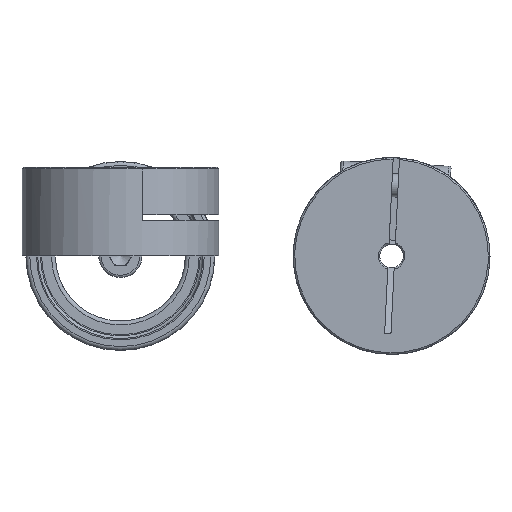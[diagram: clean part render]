
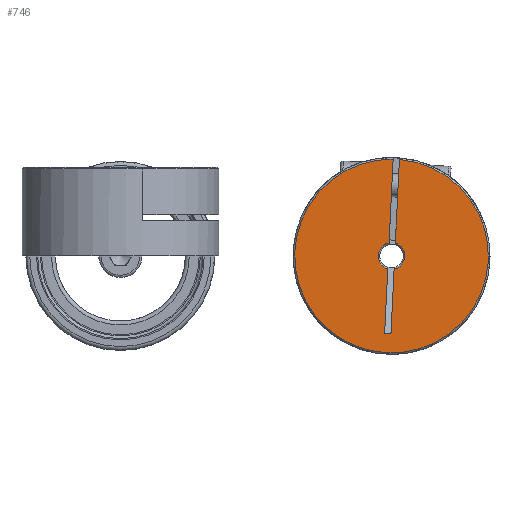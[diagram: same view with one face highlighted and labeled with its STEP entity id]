
A CAD part, left-side view. The second image highlights one B-rep face of the part: STEP entity #746.
In plain terms, the highlighted planar face has unit normal (-1, 0, 0) as drawn and (0, 0, 1) by its records, which use the part's own axes.
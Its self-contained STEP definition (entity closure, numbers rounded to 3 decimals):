
#746 = ADVANCED_FACE( 'NONE', ( #1142 ), #1143, .T. );
#1142 = FACE_OUTER_BOUND( '', #1355, .T. );
#1143 = PLANE( '', #1356 );
#1355 = EDGE_LOOP( '', ( #1674, #1675, #1676, #1677, #1678, #1679, #1680, #1681 ) );
#1356 = AXIS2_PLACEMENT_3D( '', #1682, #1683, #1684 );
#1674 = ORIENTED_EDGE( '', *, *, #2099, .F. );
#1675 = ORIENTED_EDGE( '', *, *, #2088, .T. );
#1676 = ORIENTED_EDGE( '', *, *, #2100, .F. );
#1677 = ORIENTED_EDGE( '', *, *, #2101, .T. );
#1678 = ORIENTED_EDGE( '', *, *, #2102, .T. );
#1679 = ORIENTED_EDGE( '', *, *, #2103, .T. );
#1680 = ORIENTED_EDGE( '', *, *, #2064, .T. );
#1681 = ORIENTED_EDGE( '', *, *, #2104, .F. );
#1682 = CARTESIAN_POINT( '', ( 0., 0., 11.25 ) );
#1683 = DIRECTION( '', ( 0., 0., 1. ) );
#1684 = DIRECTION( '', ( 1., 0., 0. ) );
#2064 = EDGE_CURVE( 'NONE', #2321, #2322, #2323, .T. );
#2088 = EDGE_CURVE( 'NONE', #2367, #2364, #2368, .F. );
#2099 = EDGE_CURVE( 'NONE', #2367, #2385, #2386, .F. );
#2100 = EDGE_CURVE( 'NONE', #2387, #2364, #2388, .T. );
#2101 = EDGE_CURVE( 'NONE', #2387, #2389, #2390, .T. );
#2102 = EDGE_CURVE( 'NONE', #2389, #2391, #2392, .T. );
#2103 = EDGE_CURVE( 'NONE', #2391, #2321, #2393, .F. );
#2104 = EDGE_CURVE( 'NONE', #2385, #2322, #2394, .F. );
#2321 = VERTEX_POINT( 'NONE', #2470 );
#2322 = VERTEX_POINT( 'NONE', #2471 );
#2323 = LINE( '', #2472, #2473 );
#2364 = VERTEX_POINT( 'NONE', #2626 );
#2367 = VERTEX_POINT( 'NONE', #2632 );
#2368 = CIRCLE( '', #2633, 1.7 );
#2385 = VERTEX_POINT( 'NONE', #2663 );
#2386 = LINE( '', #2664, #2665 );
#2387 = VERTEX_POINT( 'NONE', #2666 );
#2388 = LINE( '', #2667, #2668 );
#2389 = VERTEX_POINT( 'NONE', #2669 );
#2390 = CIRCLE( '', #2670, 12.3 );
#2391 = VERTEX_POINT( 'NONE', #2671 );
#2392 = LINE( '', #2672, #2673 );
#2393 = CIRCLE( '', #2674, 1.7 );
#2394 = LINE( '', #2675, #2676 );
#2470 = CARTESIAN_POINT( '', ( -1.652, -0.4, 11.25 ) );
#2471 = CARTESIAN_POINT( '', ( -9.815, -0.4, 11.25 ) );
#2472 = CARTESIAN_POINT( '', ( 0., -0.4, 11.25 ) );
#2473 = VECTOR( '', #2788, 1000. );
#2626 = CARTESIAN_POINT( '', ( 1.652, 0.4, 11.25 ) );
#2632 = CARTESIAN_POINT( '', ( -1.652, 0.4, 11.25 ) );
#2633 = AXIS2_PLACEMENT_3D( '', #2832, #2833, #2834 );
#2663 = CARTESIAN_POINT( '', ( -9.815, 0.4, 11.25 ) );
#2664 = CARTESIAN_POINT( '', ( 7., 0.4, 11.25 ) );
#2665 = VECTOR( '', #2848, 1000. );
#2666 = CARTESIAN_POINT( '', ( 12.293, 0.4, 11.25 ) );
#2667 = CARTESIAN_POINT( '', ( 0., 0.4, 11.25 ) );
#2668 = VECTOR( '', #2849, 1000. );
#2669 = CARTESIAN_POINT( '', ( 12.293, -0.4, 11.25 ) );
#2670 = AXIS2_PLACEMENT_3D( '', #2850, #2851, #2852 );
#2671 = CARTESIAN_POINT( '', ( 1.652, -0.4, 11.25 ) );
#2672 = CARTESIAN_POINT( '', ( 0., -0.4, 11.25 ) );
#2673 = VECTOR( '', #2853, 1000. );
#2674 = AXIS2_PLACEMENT_3D( '', #2854, #2855, #2856 );
#2675 = CARTESIAN_POINT( '', ( -9.815, -0.4, 11.25 ) );
#2676 = VECTOR( '', #2857, 1000. );
#2788 = DIRECTION( '', ( -1., 0., 0. ) );
#2832 = CARTESIAN_POINT( '', ( 0., 0., 11.25 ) );
#2833 = DIRECTION( '', ( 0., 0., 1. ) );
#2834 = DIRECTION( '', ( 1., 0., 0. ) );
#2848 = DIRECTION( '', ( 1., 0., 0. ) );
#2849 = DIRECTION( '', ( -1., 0., 0. ) );
#2850 = CARTESIAN_POINT( '', ( 0., 0., 11.25 ) );
#2851 = DIRECTION( '', ( 0., 0., 1. ) );
#2852 = DIRECTION( '', ( 1., 0., 0. ) );
#2853 = DIRECTION( '', ( -1., 0., 0. ) );
#2854 = CARTESIAN_POINT( '', ( 0., 0., 11.25 ) );
#2855 = DIRECTION( '', ( 0., 0., 1. ) );
#2856 = DIRECTION( '', ( 1., 0., 0. ) );
#2857 = DIRECTION( '', ( 0., 1., 0. ) );
